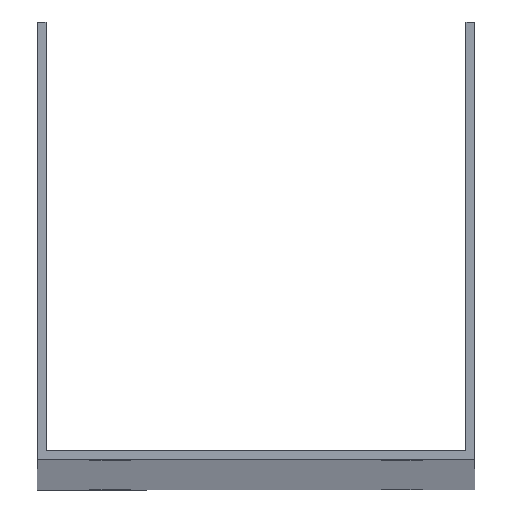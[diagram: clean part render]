
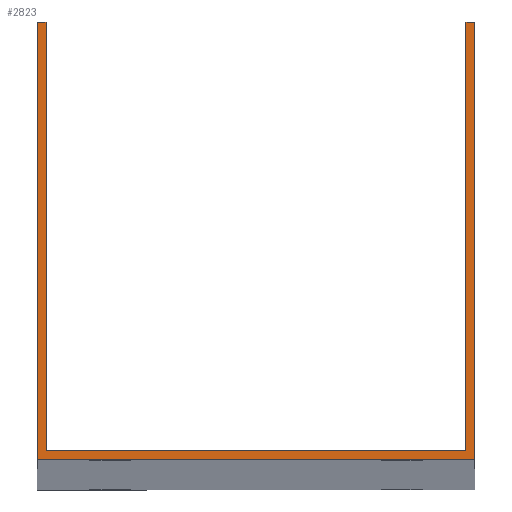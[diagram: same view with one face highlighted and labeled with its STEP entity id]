
A CAD part, top view. The second image highlights one B-rep face of the part: STEP entity #2823.
In plain terms, the highlighted planar face has unit normal (0, 0, 1).
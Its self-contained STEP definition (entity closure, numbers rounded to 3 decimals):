
#39 = CARTESIAN_POINT ( 'NONE',  ( -36., 1.5, 1500. ) ) ;
#96 = DIRECTION ( 'NONE',  ( -1., 0., 0. ) ) ;
#146 = CARTESIAN_POINT ( 'NONE',  ( -37.5, 75., 1500. ) ) ;
#471 = EDGE_CURVE ( 'NONE', #3117, #1977, #3462, .T. ) ;
#531 = EDGE_LOOP ( 'NONE', ( #1295, #833, #980, #2387, #1740, #3311, #2143, #2104 ) ) ;
#548 = PLANE ( 'NONE',  #2986 ) ;
#620 = VERTEX_POINT ( 'NONE', #2121 ) ;
#671 = EDGE_CURVE ( 'NONE', #3444, #3117, #2846, .T. ) ;
#691 = CARTESIAN_POINT ( 'NONE',  ( 36., 75., 1500. ) ) ;
#755 = CARTESIAN_POINT ( 'NONE',  ( 36., 75., 1500. ) ) ;
#833 = ORIENTED_EDGE ( 'NONE', *, *, #3583, .T. ) ;
#840 = VECTOR ( 'NONE', #1176, 1000. ) ;
#928 = VERTEX_POINT ( 'NONE', #956 ) ;
#956 = CARTESIAN_POINT ( 'NONE',  ( -37.5, 0., 1500. ) ) ;
#980 = ORIENTED_EDGE ( 'NONE', *, *, #1356, .T. ) ;
#1176 = DIRECTION ( 'NONE',  ( 0., 1., 0. ) ) ;
#1293 = CARTESIAN_POINT ( 'NONE',  ( -36., 75., 1500. ) ) ;
#1295 = ORIENTED_EDGE ( 'NONE', *, *, #2102, .F. ) ;
#1335 = CARTESIAN_POINT ( 'NONE',  ( 36., 1.5, 1500. ) ) ;
#1343 = DIRECTION ( 'NONE',  ( 0., 0., 1. ) ) ;
#1348 = CARTESIAN_POINT ( 'NONE',  ( 37.5, 0., 1500. ) ) ;
#1356 = EDGE_CURVE ( 'NONE', #620, #928, #2090, .T. ) ;
#1370 = VECTOR ( 'NONE', #2198, 1000. ) ;
#1470 = VERTEX_POINT ( 'NONE', #1335 ) ;
#1740 = ORIENTED_EDGE ( 'NONE', *, *, #671, .T. ) ;
#1755 = LINE ( 'NONE', #2343, #2817 ) ;
#1921 = EDGE_CURVE ( 'NONE', #928, #3444, #2130, .T. ) ;
#1925 = VECTOR ( 'NONE', #3239, 1000. ) ;
#1934 = LINE ( 'NONE', #2173, #2811 ) ;
#1977 = VERTEX_POINT ( 'NONE', #755 ) ;
#2002 = LINE ( 'NONE', #691, #3281 ) ;
#2048 = DIRECTION ( 'NONE',  ( 0., -1., 0. ) ) ;
#2090 = LINE ( 'NONE', #146, #3265 ) ;
#2102 = EDGE_CURVE ( 'NONE', #3475, #2807, #1755, .T. ) ;
#2104 = ORIENTED_EDGE ( 'NONE', *, *, #2882, .F. ) ;
#2121 = CARTESIAN_POINT ( 'NONE',  ( -37.5, 75., 1500. ) ) ;
#2130 = LINE ( 'NONE', #2929, #1925 ) ;
#2143 = ORIENTED_EDGE ( 'NONE', *, *, #3358, .F. ) ;
#2173 = CARTESIAN_POINT ( 'NONE',  ( -37.5, 1.5, 1500. ) ) ;
#2198 = DIRECTION ( 'NONE',  ( -1., 0., 0. ) ) ;
#2212 = CARTESIAN_POINT ( 'NONE',  ( -37.5, 75., 1500. ) ) ;
#2302 = DIRECTION ( 'NONE',  ( 0., 1., 0. ) ) ;
#2343 = CARTESIAN_POINT ( 'NONE',  ( -36., 75., 1500. ) ) ;
#2387 = ORIENTED_EDGE ( 'NONE', *, *, #1921, .T. ) ;
#2447 = FACE_OUTER_BOUND ( 'NONE', #531, .T. ) ;
#2473 = LINE ( 'NONE', #2212, #1370 ) ;
#2573 = CARTESIAN_POINT ( 'NONE',  ( -37.5, 75., 1500. ) ) ;
#2629 = VECTOR ( 'NONE', #96, 1000. ) ;
#2751 = CARTESIAN_POINT ( 'NONE',  ( 37.5, 75., 1500. ) ) ;
#2761 = DIRECTION ( 'NONE',  ( 1., 0., 0. ) ) ;
#2807 = VERTEX_POINT ( 'NONE', #39 ) ;
#2811 = VECTOR ( 'NONE', #3280, 1000. ) ;
#2817 = VECTOR ( 'NONE', #2889, 1000. ) ;
#2823 = ADVANCED_FACE ( 'NONE', ( #2447 ), #548, .T. ) ;
#2846 = LINE ( 'NONE', #3146, #840 ) ;
#2882 = EDGE_CURVE ( 'NONE', #2807, #1470, #1934, .T. ) ;
#2889 = DIRECTION ( 'NONE',  ( 0., -1., 0. ) ) ;
#2929 = CARTESIAN_POINT ( 'NONE',  ( -37.5, 0., 1500. ) ) ;
#2986 = AXIS2_PLACEMENT_3D ( 'NONE', #3017, #1343, #2761 ) ;
#3017 = CARTESIAN_POINT ( 'NONE',  ( 0., 0., 1500. ) ) ;
#3117 = VERTEX_POINT ( 'NONE', #2751 ) ;
#3146 = CARTESIAN_POINT ( 'NONE',  ( 37.5, 75., 1500. ) ) ;
#3239 = DIRECTION ( 'NONE',  ( 1., 0., 0. ) ) ;
#3265 = VECTOR ( 'NONE', #2048, 1000. ) ;
#3280 = DIRECTION ( 'NONE',  ( 1., 0., 0. ) ) ;
#3281 = VECTOR ( 'NONE', #2302, 1000. ) ;
#3311 = ORIENTED_EDGE ( 'NONE', *, *, #471, .T. ) ;
#3358 = EDGE_CURVE ( 'NONE', #1470, #1977, #2002, .T. ) ;
#3444 = VERTEX_POINT ( 'NONE', #1348 ) ;
#3462 = LINE ( 'NONE', #2573, #2629 ) ;
#3475 = VERTEX_POINT ( 'NONE', #1293 ) ;
#3583 = EDGE_CURVE ( 'NONE', #3475, #620, #2473, .T. ) ;
